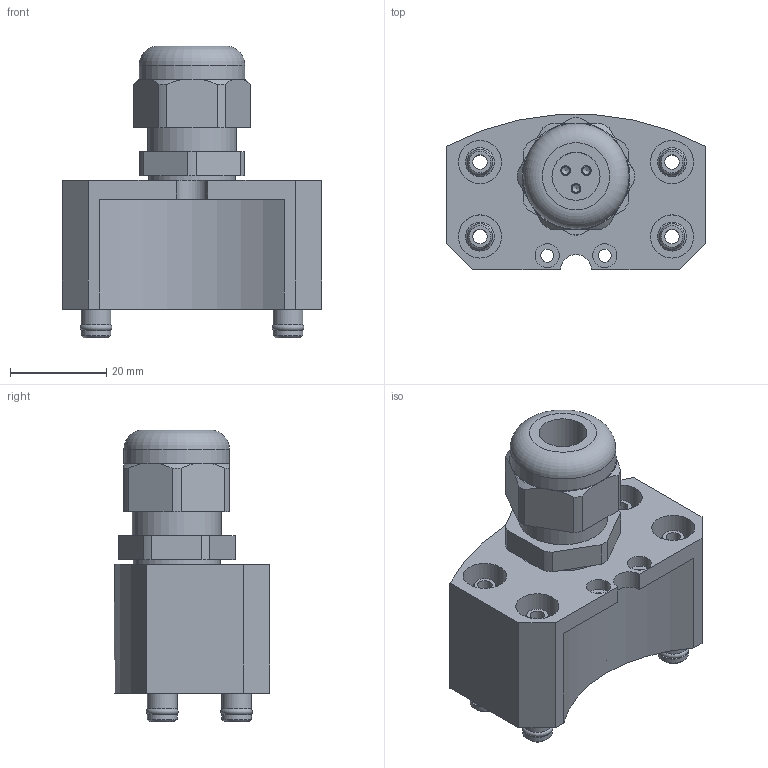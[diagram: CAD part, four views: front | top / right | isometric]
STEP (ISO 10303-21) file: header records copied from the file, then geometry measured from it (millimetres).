
FILE_DESCRIPTION((''),'2;1');
FILE_NAME('T:\CAD\Standard\Daten\Datenbank STANDARD 00\3 MEK\4 - 3D-CAD-Daten MEK 063-160\MEK063\step-Daten\G-MEK063-O-4Pk4-1E12.stp','2012-12-05T13:58:13',('Yvonne'),(''),'Autodesk Inventor 2011','Autodesk Inventor 2011','');
FILE_SCHEMA(('AUTOMOTIVE_DESIGN { 1 0 10303 214 1 1 1 1 }'));
Length unit declared in the file: millimetre
Products named in the file (1): Bauteil5
Bounding box: 54 x 32.4 x 60.8 mm (x, y, z)
Volume: 37717.9 mm3; surface area: 22022.9 mm2
Topology: 1 solids, 1 shells, 393 faces, 962 edges, 589 vertices
Faces by surface type: cylinder 161, plane 152, cone 43, torus 25, sphere 12
Full cylindrical faces by diameter (mm): 1 x12, 1.6 x12, 2 x26, 2.7 x2, 3 x4, 4 x4, 4.2 x8, 4.8 x4, 5 x2, 5.5 x4, 5.9 x4, 6 x4, 6.2 x8, 8 x4, 8.3 x4, 9 x4, 10 x1, 14 x1, 15.9 x1, 17.1 x1, 18.1 x1, 18.5 x2, 22 x1, 23 x2, 25.5 x2
Entity records: 11915 total; most frequent: CARTESIAN_POINT 3106, DIRECTION 1827, ORIENTED_EDGE 1472, AXIS2_PLACEMENT_3D 775, EDGE_CURVE 736, EDGE_LOOP 630, VERTEX_POINT 527, FACE_OUTER_BOUND 393
